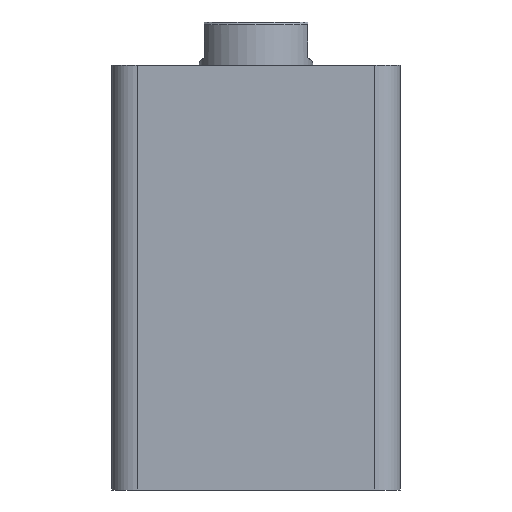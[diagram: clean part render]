
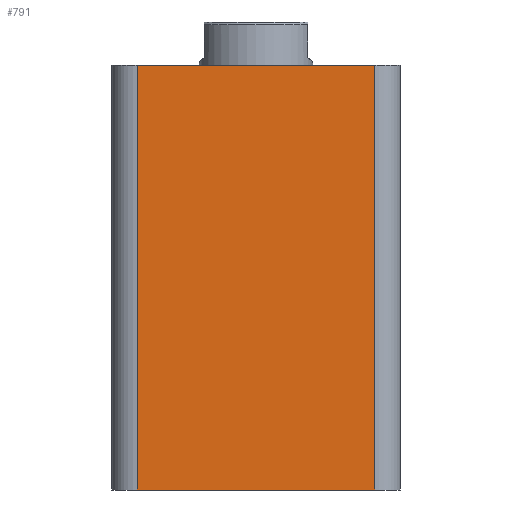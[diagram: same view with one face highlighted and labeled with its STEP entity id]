
A CAD part, front view. The second image highlights one B-rep face of the part: STEP entity #791.
In plain terms, the highlighted planar face has unit normal (0, -1, 0).
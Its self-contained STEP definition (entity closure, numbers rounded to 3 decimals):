
#91 = ORIENTED_EDGE ( 'NONE', *, *, #815, .T. ) ;
#92 = ORIENTED_EDGE ( 'NONE', *, *, #816, .T. ) ;
#93 = ORIENTED_EDGE ( 'NONE', *, *, #817, .F. ) ;
#94 = ORIENTED_EDGE ( 'NONE', *, *, #818, .T. ) ;
#325 = CARTESIAN_POINT ( 'NONE',  ( -57., -57., 168. ) ) ;
#327 = PLANE ( 'NONE',  #1837 ) ;
#329 = DIRECTION ( 'NONE',  ( 0., 1., 0. ) ) ;
#330 = DIRECTION ( 'NONE',  ( 0., 0., 1. ) ) ;
#403 = DIRECTION ( 'NONE',  ( 1., 0., 0. ) ) ;
#404 = CARTESIAN_POINT ( 'NONE',  ( 47., -57., 168. ) ) ;
#406 = CARTESIAN_POINT ( 'NONE',  ( -57., -57., 0. ) ) ;
#407 = CARTESIAN_POINT ( 'NONE',  ( -47., -57., 168. ) ) ;
#410 = DIRECTION ( 'NONE',  ( 0., 0., 1. ) ) ;
#411 = CARTESIAN_POINT ( 'NONE',  ( -57., -57., 168. ) ) ;
#412 = DIRECTION ( 'NONE',  ( 1., 0., 0. ) ) ;
#413 = DIRECTION ( 'NONE',  ( 0., 0., -1. ) ) ;
#791 = ADVANCED_FACE ( 'NONE', ( #2107 ), #327, .F. ) ;
#815 = EDGE_CURVE ( 'NONE', #1432, #1435, #2146, .T. ) ;
#816 = EDGE_CURVE ( 'NONE', #1435, #1015, #2154, .T. ) ;
#817 = EDGE_CURVE ( 'NONE', #1434, #1015, #2160, .T. ) ;
#818 = EDGE_CURVE ( 'NONE', #1434, #1432, #2158, .T. ) ;
#988 = EDGE_LOOP ( 'NONE', ( #91, #92, #93, #94 ) ) ;
#1015 = VERTEX_POINT ( 'NONE', #1233 ) ;
#1233 = CARTESIAN_POINT ( 'NONE',  ( 47., -57., 168. ) ) ;
#1432 = VERTEX_POINT ( 'NONE', #2346 ) ;
#1434 = VERTEX_POINT ( 'NONE', #2348 ) ;
#1435 = VERTEX_POINT ( 'NONE', #2349 ) ;
#1837 = AXIS2_PLACEMENT_3D ( 'NONE', #325, #329, #330 ) ;
#2107 = FACE_OUTER_BOUND ( 'NONE', #988, .T. ) ;
#2146 = LINE ( 'NONE', #406, #2159 ) ;
#2154 = LINE ( 'NONE', #404, #2161 ) ;
#2158 = LINE ( 'NONE', #407, #2165 ) ;
#2159 = VECTOR ( 'NONE', #403, 1000. ) ;
#2160 = LINE ( 'NONE', #411, #2163 ) ;
#2161 = VECTOR ( 'NONE', #410, 1000. ) ;
#2163 = VECTOR ( 'NONE', #412, 1000. ) ;
#2165 = VECTOR ( 'NONE', #413, 1000. ) ;
#2346 = CARTESIAN_POINT ( 'NONE',  ( -47., -57., 0. ) ) ;
#2348 = CARTESIAN_POINT ( 'NONE',  ( -47., -57., 168. ) ) ;
#2349 = CARTESIAN_POINT ( 'NONE',  ( 47., -57., 0. ) ) ;
